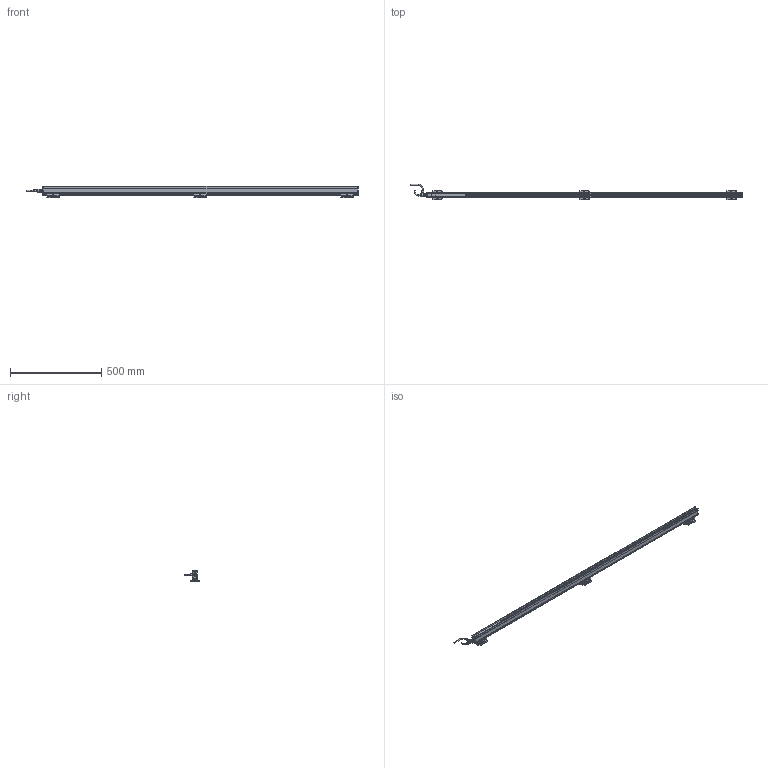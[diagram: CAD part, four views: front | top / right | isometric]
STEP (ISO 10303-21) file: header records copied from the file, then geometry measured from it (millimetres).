
FILE_DESCRIPTION(('Bauteilbeschreibung','HiCAD-Model','HiCAD-STEP-TRANSLATION','Bauteilbeschreibung'),'2;1');
FILE_NAME('PERFORMAXIQEASY_1650-17403D.STP','2014-03-05T11:46:23+00:00',('Konstrukteur'),('Konstrukteur Firma GmbH'),' HiCAD 2011, Step 1600.0 ','HiCAD 2011','confidential');
FILE_SCHEMA(('AUTOMOTIVE_DESIGN { 1 2 10303 214 0 1 1 1 }'));
Products named in the file (43): PERFORMAXIQEASY_1650_17403D; A_PERFORMAX IQ EASY 1650_1740; A_PERFORMAX IQ EASY SPEED; A_CAP DE; A_CAP CE_5; GROUP; PIN; GROUP0; PIN0; LED_2C_3MM; LED02C03MM; A519020315_CONNECTOR APPLIANCE; A_INSERT; A_CONTACTS; A_HOUSING; A_PROFILE; A_POTTING; A532000100_BRACKET BARS_ MOUNT; A_SIDE PIECE; A0SIDE0PIECE; A_BRACKET SMALL; A_SLIDE PIECE; A5320001000BRACKET0BARS00MOUNT; A0SIDE0PIECE0; A0SIDE0PIECE1; A0BRACKET0SMALL; A0SLIDE0PIECE; A5320001000BRACKET0BARS00MOUNT0; A0SIDE0PIECE2; A0SIDE0PIECE3; A0BRACKET0SMALL0; A0SLIDE0PIECE0; A_CONNECTOR STRAIGHT; EXTRUDED SOLID_0; DRAAD GEBOGEN; REVOLVED SOLID_1; REVOLVED SOLID_3; A_CONNECTOR ANGLED; REVOLVED0SOLID01; EXTRUDED0SOLID00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
Assembly tree (42 placements, depth 5):
  PERFORMAXIQEASY_1650_17403D
    A_PERFORMAX IQ EASY 1650_1740
      A_PERFORMAX IQ EASY SPEED
        A_CAP DE
        A_CAP CE_5
        GROUP
          PIN
        GROUP0
          PIN0
        LED_2C_3MM
        LED02C03MM
        A519020315_CONNECTOR APPLIANCE
          A_INSERT
          A_CONTACTS
          A_HOUSING
        A_PROFILE
        A_POTTING
      A532000100_BRACKET BARS_ MOUNT
        A_SIDE PIECE
        A0SIDE0PIECE
        A_BRACKET SMALL
        A_SLIDE PIECE
      A5320001000BRACKET0BARS00MOUNT
        A0SIDE0PIECE0
        A0SIDE0PIECE1
        A0BRACKET0SMALL
        A0SLIDE0PIECE
      A5320001000BRACKET0BARS00MOUNT0
        A0SIDE0PIECE2
        A0SIDE0PIECE3
        A0BRACKET0SMALL0
        A0SLIDE0PIECE0
      A_CONNECTOR STRAIGHT
        EXTRUDED SOLID_0
        DRAAD GEBOGEN
        REVOLVED SOLID_1
        REVOLVED SOLID_3
      A_CONNECTOR ANGLED
        REVOLVED0SOLID01
        EXTRUDED0SOLID00
        C_EDGE SWEEP_0
        REVOLVED SOLID_2
        REVOLVED0SOLID03
Bounding box: 1817.89 x 84.26 x 63.13 mm (x, y, z)
Volume: 1800663.9 mm3; surface area: 449881.3 mm2
Topology: 37 solids, 37 shells, 2679 faces, 6859 edges, 4095 vertices
Faces by surface type: cylinder 1117, plane 1033, sphere 167, torus 158, bspline 128, cone 76
Full cylindrical faces by diameter (mm): 0.8 x10, 1 x5, 2.387 x6, 3 x15, 3.1 x1, 4.2 x2, 5 x4, 5.5 x15, 8 x2, 8.2 x1, 8.4 x2, 8.945 x1, 9 x2, 10.2 x1, 10.5 x3, 11 x1, 12 x3, 12.8 x1, 13.8 x4, 14.5 x3
Entity records: 123325 total; most frequent: CARTESIAN_POINT 28458, DIRECTION 13337, ORIENTED_EDGE 12962, EDGE_CURVE 6481, COLOUR_RGB 6168, PRESENTATION_STYLE_ASSIGNMENT 6168, OVER_RIDING_STYLED_ITEM 6136, CURVE_STYLE 6131
